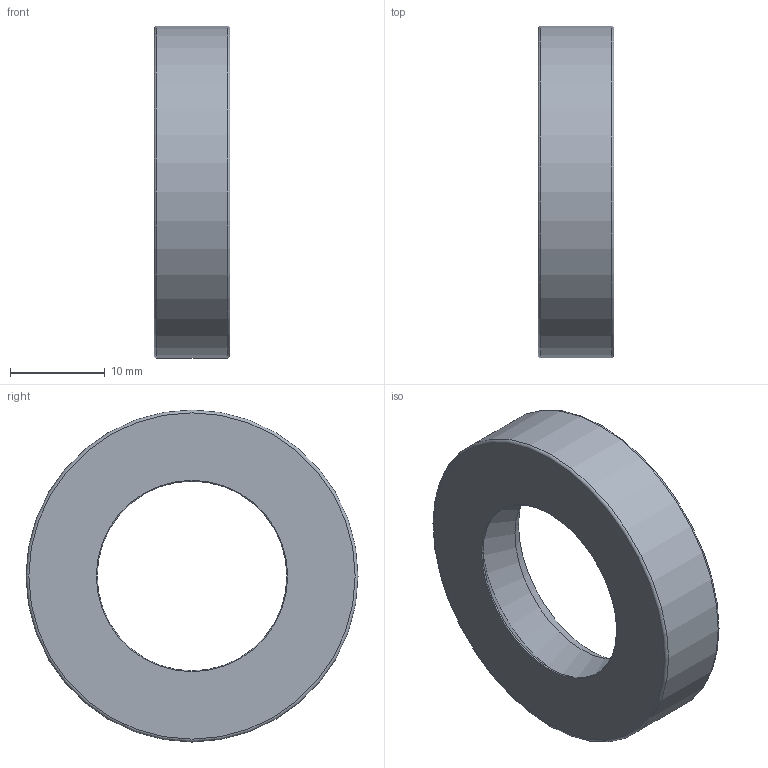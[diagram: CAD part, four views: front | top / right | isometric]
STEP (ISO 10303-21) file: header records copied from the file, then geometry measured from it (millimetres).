
FILE_DESCRIPTION(/* description */ ('오일-실'),/* implementation_level */ '2;1');
FILE_NAME(/* name */ '',/* time_stamp */ '2024-09-10T16:25:02+09:00',/* author */ ('jhkim'),/* organization */ (''),/* preprocessor_version */ 'ST-DEVELOPER v20',/* originating_system */ 'Autodesk Inventor 2025',/* authorisation */ '');
FILE_SCHEMA (('AUTOMOTIVE_DESIGN { 1 0 10303 214 3 1 1 }'));
Length unit declared in the file: millimetre
Products named in the file (1): 오일 실 20 35 8
Bounding box: 8 x 35 x 35 mm (x, y, z)
Volume: 2737.7 mm3; surface area: 3594.2 mm2
Topology: 1 solids, 1 shells, 16 faces, 34 edges, 22 vertices
Faces by surface type: torus 5, plane 4, cone 4, cylinder 3
Full cylindrical faces by diameter (mm): 24.2 x1, 31.5 x1, 35 x1
Entity records: 496 total; most frequent: DIRECTION 95, CARTESIAN_POINT 73, ORIENTED_EDGE 68, AXIS2_PLACEMENT_3D 44, EDGE_CURVE 34, CIRCLE 27, VERTEX_POINT 22, EDGE_LOOP 20
